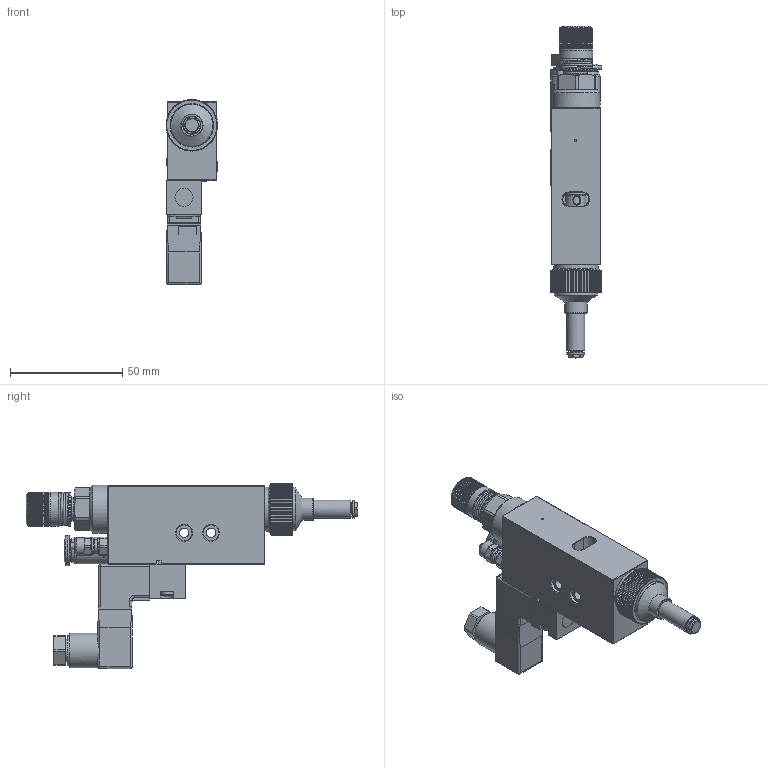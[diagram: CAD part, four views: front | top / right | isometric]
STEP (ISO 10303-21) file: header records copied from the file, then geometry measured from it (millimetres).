
FILE_DESCRIPTION (( 'STEP AP214' ), '1' );
FILE_NAME ('DAS-100EV-20.STEP', '2025-01-31T08:41:10', ( '' ), ( '' ), 'SwSTEP 2.0', 'SolidWorks 2024', '' );
FILE_SCHEMA (( 'AUTOMOTIVE_DESIGN' ));
Products named in the file (1): DAS-100EV-20
Bounding box: 23.15 x 148 x 82.5 mm (x, y, z)
Volume: 83297.2 mm3; surface area: 27697.5 mm2
Topology: 2 solids, 5 shells, 1397 faces, 3688 edges, 2326 vertices
Faces by surface type: plane 548, cylinder 530, cone 285, bspline 34
Full cylindrical faces by diameter (mm): 0.5 x10, 0.8 x2, 1 x1, 1.5 x3, 2 x1, 2.5 x6, 2.7 x3, 3 x8, 3.2 x4, 3.3 x1, 3.5 x4, 3.585 x1, 4.2 x3, 4.5 x1, 5 x2, 5.15 x1, 5.5 x1, 5.6 x2, 6 x1, 7 x5, 7.1 x1, 7.169 x1, 7.5 x1, 7.8 x1, 8 x3, 8.053 x1, 8.566 x1, 8.8 x1, 8.85 x1, 9.7 x1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
Entity records: 61106 total; most frequent: CARTESIAN_POINT 30513, ORIENTED_EDGE 6862, DIRECTION 5297, EDGE_CURVE 3431, VERTEX_POINT 2227, AXIS2_PLACEMENT_3D 2011, EDGE_LOOP 1638, FACE_OUTER_BOUND 1498
